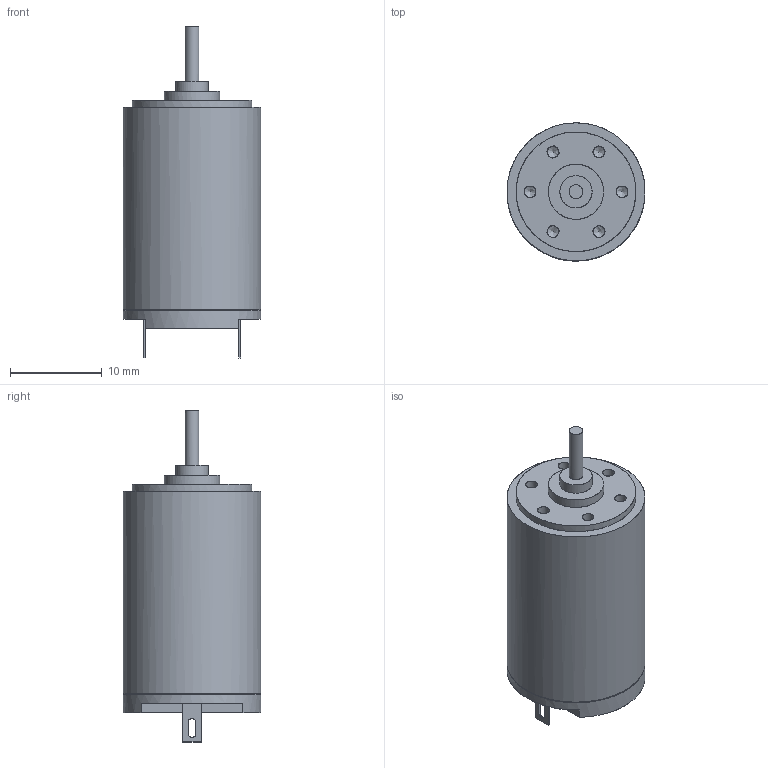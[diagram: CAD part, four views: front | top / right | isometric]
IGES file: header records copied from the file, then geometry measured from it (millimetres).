
Global section: file name: E:\WORK\MISC\DI\MOTORS\2011-11-25\1524TSR.igs; native system: NX V7.5; preprocessor: SIEMENS PLM Software NX 7.5; date: 20111221.230000; units: millimetre
Bounding box: 15 x 15 x 36.1 mm (x, y, z)
Surface area: 1664.4 mm2 (no closed solid volume)
Topology: 0 solids, 0 shells, 48 faces, 406 edges, 440 vertices
Faces by surface type: bspline 48
